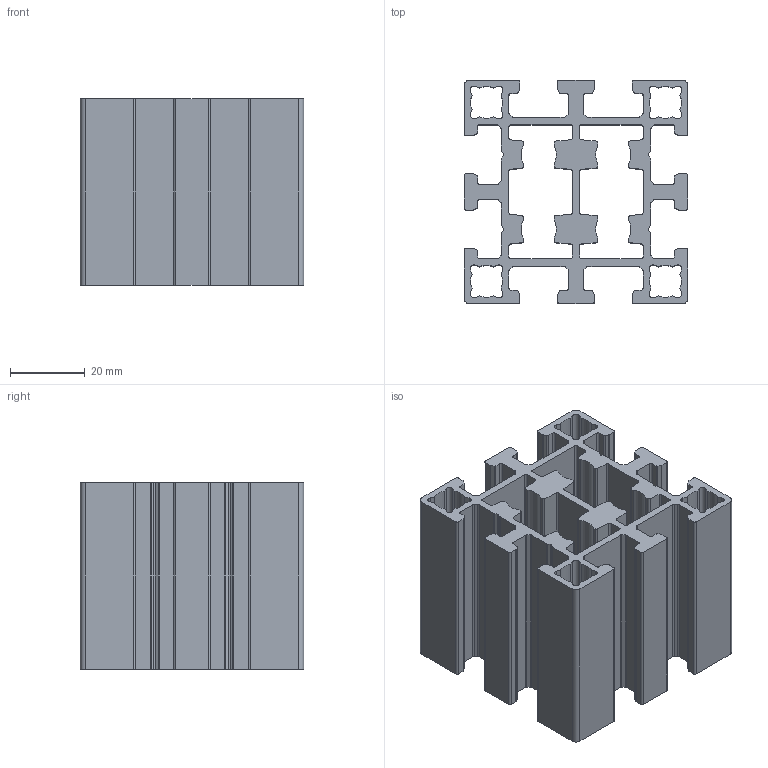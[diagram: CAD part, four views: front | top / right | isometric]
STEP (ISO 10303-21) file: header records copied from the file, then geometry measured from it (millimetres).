
FILE_DESCRIPTION(('STEP AP214'),'1');
FILE_NAME('F66SB-.stp','2017-07-21T04:14:00',(' '),(' '),'Spatial InterOp 3D',' ',' ');
FILE_SCHEMA(('automotive_design'));
Length unit declared in the file: millimetre
Products named in the file (1): F66SB-
Bounding box: 60 x 60 x 50 mm (x, y, z)
Volume: 61529.6 mm3; surface area: 46231 mm2
Topology: 1 solids, 1 shells, 386 faces, 1152 edges, 768 vertices
Faces by surface type: plane 194, cylinder 192
Entity records: 16208 total; most frequent: DIRECTION 2310, CARTESIAN_POINT 2307, ORIENTED_EDGE 2304, EDGE_CURVE 1152, AXIS2_PLACEMENT_3D 771, VERTEX_POINT 768, LINE 768, VECTOR 768
